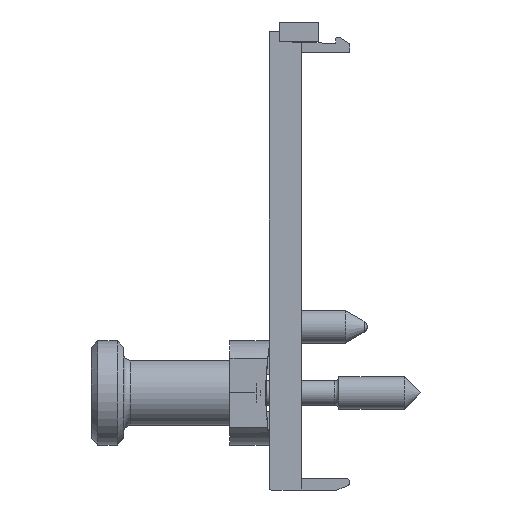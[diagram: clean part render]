
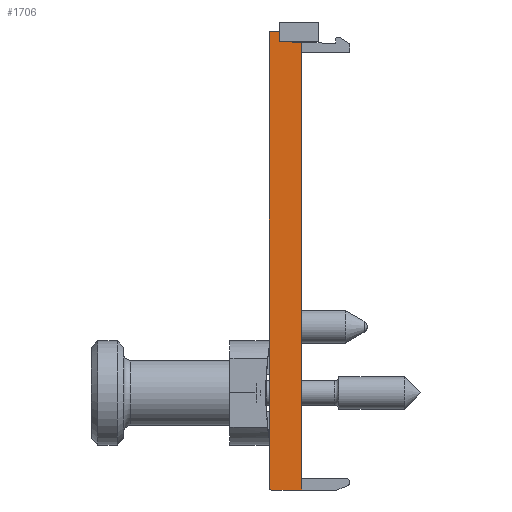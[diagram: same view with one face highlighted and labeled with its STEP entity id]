
A CAD part, front view. The second image highlights one B-rep face of the part: STEP entity #1706.
In plain terms, the highlighted planar face has unit normal (0, -1, 0).
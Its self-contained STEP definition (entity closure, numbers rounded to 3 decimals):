
#1706=ADVANCED_FACE('',(#2181),#1934,.F.);
#1934=PLANE('',#7959);
#2181=FACE_OUTER_BOUND('',#2559,.T.);
#2559=EDGE_LOOP('',(#4087,#4088,#4089,#4090,#4091,#4092,#4093,#4094,#4095));
#2892=CIRCLE('',#7956,0.2);
#2893=CIRCLE('',#7957,0.2);
#2894=CIRCLE('',#7958,0.2);
#4087=ORIENTED_EDGE('',*,*,#5927,.T.);
#4088=ORIENTED_EDGE('',*,*,#6171,.T.);
#4089=ORIENTED_EDGE('',*,*,#6172,.T.);
#4090=ORIENTED_EDGE('',*,*,#5963,.T.);
#4091=ORIENTED_EDGE('',*,*,#6173,.F.);
#4092=ORIENTED_EDGE('',*,*,#6174,.T.);
#4093=ORIENTED_EDGE('',*,*,#6175,.T.);
#4094=ORIENTED_EDGE('',*,*,#6168,.T.);
#4095=ORIENTED_EDGE('',*,*,#6176,.T.);
#5132=VERTEX_POINT('',#11082);
#5133=VERTEX_POINT('',#11084);
#5154=VERTEX_POINT('',#11196);
#5168=VERTEX_POINT('',#11224);
#5366=VERTEX_POINT('',#12179);
#5367=VERTEX_POINT('',#12181);
#5369=VERTEX_POINT('',#12187);
#5370=VERTEX_POINT('',#12190);
#5371=VERTEX_POINT('',#12192);
#5927=EDGE_CURVE('',#5133,#5132,#6681,.T.);
#5963=EDGE_CURVE('',#5154,#5168,#6710,.T.);
#6168=EDGE_CURVE('',#5367,#5366,#6848,.T.);
#6171=EDGE_CURVE('',#5132,#5369,#2892,.T.);
#6172=EDGE_CURVE('',#5369,#5154,#6851,.T.);
#6173=EDGE_CURVE('',#5370,#5168,#6852,.T.);
#6174=EDGE_CURVE('',#5370,#5371,#6853,.T.);
#6175=EDGE_CURVE('',#5371,#5367,#2893,.T.);
#6176=EDGE_CURVE('',#5366,#5133,#2894,.T.);
#6681=LINE('',#11083,#7288);
#6710=LINE('',#11225,#7317);
#6848=LINE('',#12180,#7455);
#6851=LINE('',#12188,#7458);
#6852=LINE('',#12189,#7459);
#6853=LINE('',#12191,#7460);
#7288=VECTOR('',#8828,1.);
#7317=VECTOR('',#8859,1.);
#7455=VECTOR('',#9151,1.);
#7458=VECTOR('',#9158,1.);
#7459=VECTOR('',#9159,1.);
#7460=VECTOR('',#9160,1.);
#7956=AXIS2_PLACEMENT_3D('',#12186,#9156,#9157);
#7957=AXIS2_PLACEMENT_3D('',#12193,#9161,#9162);
#7958=AXIS2_PLACEMENT_3D('',#12194,#9163,#9164);
#7959=AXIS2_PLACEMENT_3D('',#12195,#9165,#9166);
#8828=DIRECTION('',(0.,0.,-1.));
#8859=DIRECTION('',(0.,0.,1.));
#9151=DIRECTION('',(-1.,0.,0.));
#9156=DIRECTION('',(0.,-1.,0.));
#9157=DIRECTION('',(-1.,0.,0.));
#9158=DIRECTION('',(1.,0.,0.));
#9159=DIRECTION('',(0.999,0.,-0.035));
#9160=DIRECTION('',(0.,0.,1.));
#9161=DIRECTION('',(0.,-1.,0.));
#9162=DIRECTION('',(-1.,0.,0.));
#9163=DIRECTION('',(0.,-1.,0.));
#9164=DIRECTION('',(-1.,0.,0.));
#9165=DIRECTION('',(0.,1.,0.));
#9166=DIRECTION('',(0.,0.,1.));
#11082=CARTESIAN_POINT('',(-5.,-14.15,-6.53));
#11083=CARTESIAN_POINT('',(-5.,-14.15,10.88));
#11084=CARTESIAN_POINT('',(-5.,-14.15,28.29));
#11196=CARTESIAN_POINT('',(-2.5,-14.15,-6.73));
#11224=CARTESIAN_POINT('',(-2.5,-14.15,27.631));
#11225=CARTESIAN_POINT('',(-2.5,-14.15,10.88));
#12179=CARTESIAN_POINT('',(-4.8,-14.15,28.49));
#12180=CARTESIAN_POINT('',(-4.995,-14.15,28.49));
#12181=CARTESIAN_POINT('',(-4.4,-14.15,28.49));
#12186=CARTESIAN_POINT('',(-4.8,-14.15,-6.53));
#12187=CARTESIAN_POINT('',(-4.8,-14.15,-6.73));
#12188=CARTESIAN_POINT('',(-3.745,-14.15,-6.73));
#12189=CARTESIAN_POINT('',(-3.159,-14.15,27.654));
#12190=CARTESIAN_POINT('',(-4.2,-14.15,27.69));
#12191=CARTESIAN_POINT('',(-4.2,-14.15,10.88));
#12192=CARTESIAN_POINT('',(-4.2,-14.15,28.29));
#12193=CARTESIAN_POINT('',(-4.4,-14.15,28.29));
#12194=CARTESIAN_POINT('',(-4.8,-14.15,28.29));
#12195=CARTESIAN_POINT('',(-3.745,-14.15,10.88));
